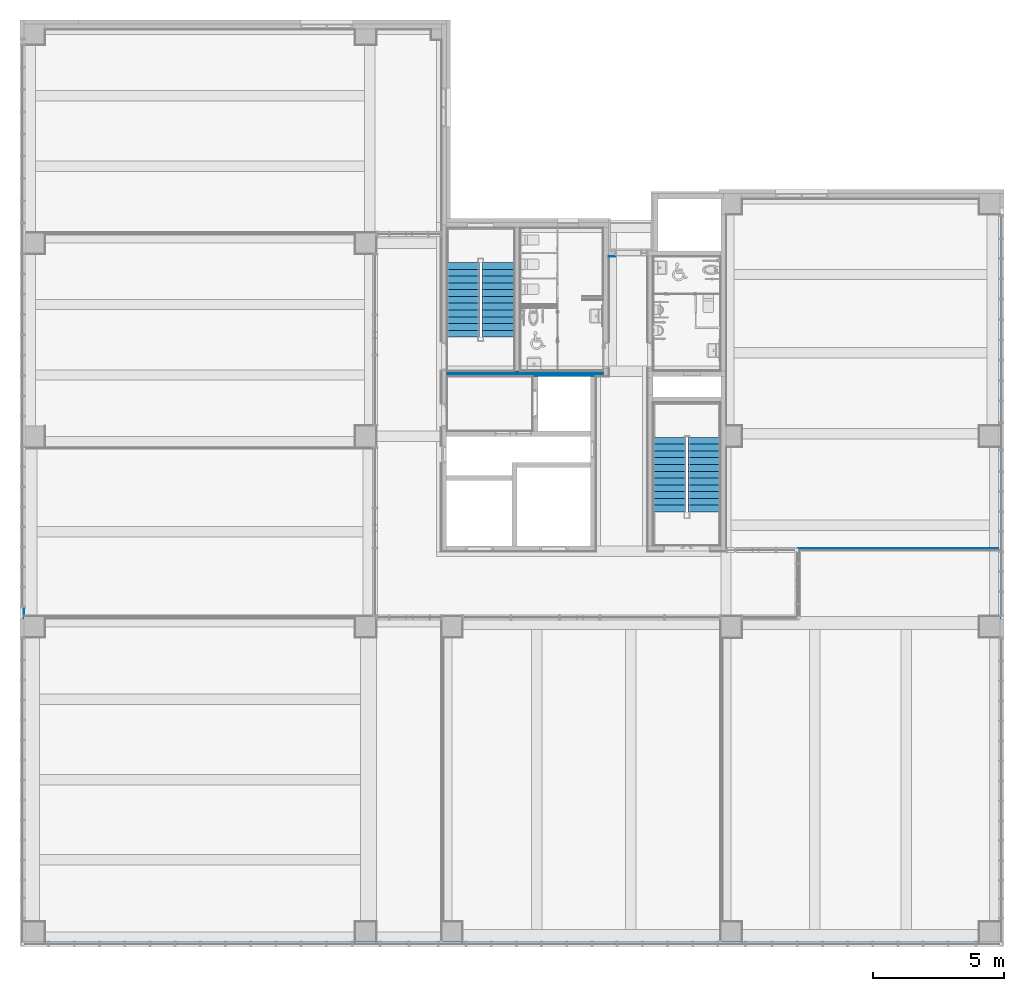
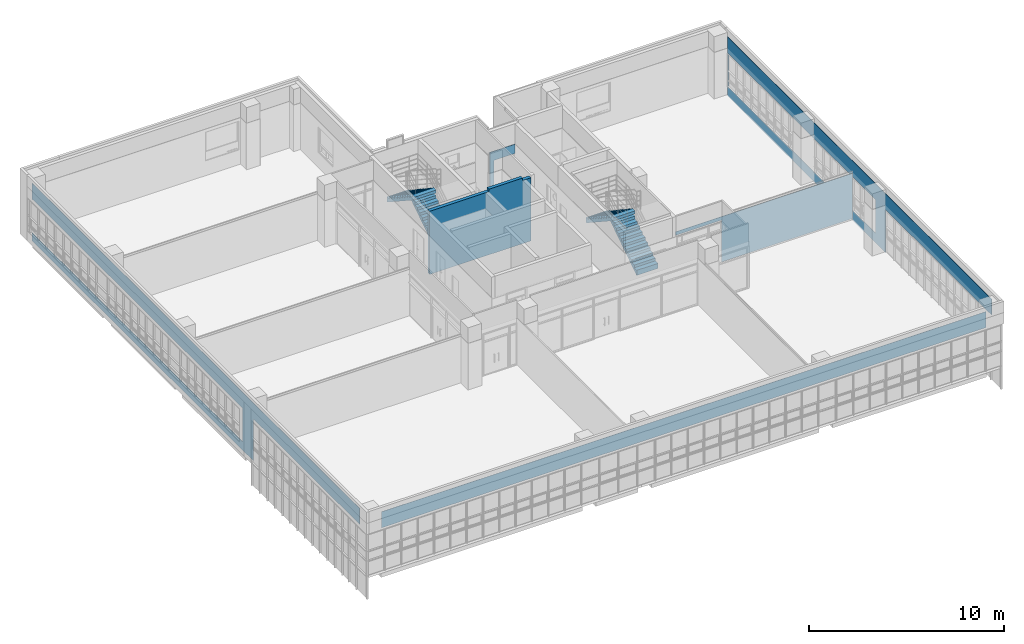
# One storey, part 70 of 81: 6 walls, 4 stair flights, 2 elements without a shape of their own.
"""IFC2X3 building model written with IfcOpenShell, lengths in millimetres."""

from ifc_helpers import new_model, entity, si_unit, converted_unit, derived_unit, direction, frame, origin, place, context, subcontext, project, spatial, faceted_brep, material, layer, layer_set, type_object, element, aggregate, save


model = new_model("IFC2X3")

# Units and contexts
model_context = context("Model", 3, precision=0.01, world=origin(), true_north=direction((6.123031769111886e-17, 1.0)))
body_context = subcontext(model_context, "Body", "Model", "MODEL_VIEW")
ifc_project = project(units=[si_unit("LENGTHUNIT", "METRE", prefix="MILLI"), si_unit("AREAUNIT", "SQUARE_METRE"), si_unit("VOLUMEUNIT", "CUBIC_METRE"), converted_unit("PLANEANGLEUNIT", "DEGREE", entity("IfcRatioMeasure", 0.017453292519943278), si_unit("PLANEANGLEUNIT", "RADIAN"), dimensions=[0, 0, 0, 0, 0, 0, 0]), si_unit("MASSUNIT", "GRAM", prefix="KILO"), derived_unit("MASSDENSITYUNIT", [(si_unit("MASSUNIT", "GRAM", prefix="KILO"), 1), (si_unit("LENGTHUNIT", "METRE"), -3)]), derived_unit("MOMENTOFINERTIAUNIT", [(si_unit("LENGTHUNIT", "METRE"), 4)]), si_unit("TIMEUNIT", "SECOND"), si_unit("FREQUENCYUNIT", "HERTZ"), si_unit("THERMODYNAMICTEMPERATUREUNIT", "DEGREE_CELSIUS"), derived_unit("THERMALTRANSMITTANCEUNIT", [(si_unit("MASSUNIT", "GRAM", prefix="KILO"), 1), (si_unit("THERMODYNAMICTEMPERATUREUNIT", "KELVIN"), -1), (si_unit("TIMEUNIT", "SECOND"), -3)]), derived_unit("VOLUMETRICFLOWRATEUNIT", [(si_unit("LENGTHUNIT", "METRE"), 3), (si_unit("TIMEUNIT", "SECOND"), -1)]), derived_unit("MASSFLOWRATEUNIT", [(si_unit("MASSUNIT", "GRAM", prefix="KILO"), 1), (si_unit("TIMEUNIT", "SECOND"), -1)]), derived_unit("ROTATIONALFREQUENCYUNIT", [(si_unit("TIMEUNIT", "SECOND"), -1)]), si_unit("ELECTRICCURRENTUNIT", "AMPERE"), si_unit("ELECTRICVOLTAGEUNIT", "VOLT"), si_unit("POWERUNIT", "WATT"), si_unit("FORCEUNIT", "NEWTON", prefix="KILO"), si_unit("ILLUMINANCEUNIT", "LUX"), si_unit("LUMINOUSFLUXUNIT", "LUMEN"), si_unit("LUMINOUSINTENSITYUNIT", "CANDELA"), derived_unit("USERDEFINED", [(si_unit("MASSUNIT", "GRAM", prefix="KILO"), -1), (si_unit("LENGTHUNIT", "METRE"), -2), (si_unit("TIMEUNIT", "SECOND"), 3), (si_unit("LUMINOUSFLUXUNIT", "LUMEN"), 1)]), derived_unit("SOUNDPOWERUNIT", [(si_unit("MASSUNIT", "GRAM", prefix="KILO"), 1), (si_unit("LENGTHUNIT", "METRE"), 2), (si_unit("TIMEUNIT", "SECOND"), -3)]), derived_unit("SOUNDPRESSUREUNIT", [(si_unit("MASSUNIT", "GRAM", prefix="KILO"), 1), (si_unit("LENGTHUNIT", "METRE"), -1), (si_unit("TIMEUNIT", "SECOND"), -2)]), derived_unit("LINEARVELOCITYUNIT", [(si_unit("LENGTHUNIT", "METRE"), 1), (si_unit("TIMEUNIT", "SECOND"), -1)]), si_unit("PRESSUREUNIT", "PASCAL"), derived_unit("USERDEFINED", [(si_unit("LENGTHUNIT", "METRE"), -2), (si_unit("MASSUNIT", "GRAM", prefix="KILO"), 1), (si_unit("TIMEUNIT", "SECOND"), -2)]), derived_unit("LINEARFORCEUNIT", [(si_unit("MASSUNIT", "GRAM", prefix="KILO"), 1), (si_unit("LENGTHUNIT", "METRE"), 1), (si_unit("TIMEUNIT", "SECOND"), -2), (si_unit("LENGTHUNIT", "METRE"), -1)]), derived_unit("PLANARFORCEUNIT", [(si_unit("MASSUNIT", "GRAM", prefix="KILO"), 1), (si_unit("LENGTHUNIT", "METRE"), 1), (si_unit("TIMEUNIT", "SECOND"), -2), (si_unit("LENGTHUNIT", "METRE"), -2)])], contexts=[model_context])

# Site, building, storey
site_placement = place(None, frame((-14167.972527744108, -657.2125860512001, 0.0)))
site = spatial("IfcSite", under=ifc_project, at=site_placement, Name="Default", CompositionType="ELEMENT")
building_placement = place(site_placement, origin())
building = spatial("IfcBuilding", under=site, at=building_placement, Name="Sample Building", CompositionType="ELEMENT")
storey_placement = place(building_placement, frame((0.0, 0.0, 13400.0)))
storey = spatial("IfcBuildingStorey", under=building, at=storey_placement, Name="지상 4층", CompositionType="ELEMENT", Elevation=13400.00000000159)

# Walls
ifc_material_1 = material(Name="KBIMS-콘크리트")
ifc_layer_1 = layer(ifc_material_1, 200.0)
ifc_layer_set_1 = layer_set([ifc_layer_1], Name="기본 벽:WA111-철근콘크리트구조 벽 200mm_CW1")
wall_type_1 = type_object("IfcWallType", Name="기본 벽:WA111-철근콘크리트구조 벽 200mm_CW1", PredefinedType="STANDARD", material=ifc_layer_set_1)
wall_1_placement = place(storey_placement, frame((30267.963761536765, 22357.21231133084, -2.3000097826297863e-09)))
element("IfcWall", 1, at=wall_1_placement, inside=storey, type_object=wall_type_1, Name="기본 벽:WA111-철근콘크리트구조 벽 200mm_CW1", ObjectType="기본 벽:WA111-철근콘크리트구조 벽 200mm_CW1", context=body_context, shape_type="Brep", body=[
    faceted_brep([(0.0, -100.0, 0.0), (3298.162052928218, -100.0, 0.0), (3300.0087295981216, -100.0, 0.0), (3300.6416825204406, -100.0, 0.0), (3500.0087295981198, -100.0, 0.0), (5500.008729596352, -100.0, 0.0), (5700.008729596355, -100.0, 0.0), (6000.000036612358, -100.0, 0.0), (6000.000036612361, -100.0, 3950.0), (5899.991380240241, -100.0, 3950.0), (5700.008729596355, -100.0, 3950.0), (5500.0087295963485, -100.0, 3950.0), (5500.0087295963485, -100.0, 4100.0), (3500.0087295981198, -100.0, 4100.0), (3500.0087295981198, -100.0, 3950.0), (3300.0087295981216, -100.0, 3950.0), (0.0, -100.0, 3950.0), (0.0, -100.0, 80.0), (6000.000036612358, 100.0, 0.0), (2800.0087295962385, 100.0, 0.0), (2600.0087295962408, 100.0, 0.0), (0.0, 100.0, 0.0), (0.0, 100.0, 3950.0), (3500.0087295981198, 100.0, 3950.0), (3500.0087295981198, 100.0, 4100.0), (5500.0087295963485, 100.0, 4100.0), (5500.0087295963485, 100.0, 3950.0), (6000.000036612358, 100.0, 3950.0), (6000.000036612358, 100.0, 3900.0), (6000.000036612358, 100.0, 3700.0)], [[[0, 1, 2, 3, 4, 5, 6, 7, 8, 9, 10, 11, 12, 13, 14, 15, 16, 17]], [[18, 19, 20, 21, 22, 23, 24, 25, 26, 27, 28, 29]], [[7, 6, 5, 4, 3, 2, 1, 0, 21, 20, 19, 18]], [[13, 12, 25, 24]], [[21, 0, 17, 16, 22]], [[7, 18, 29, 28, 27, 8]], [[14, 23, 22, 16, 15]], [[23, 14, 13, 24]], [[11, 26, 25, 12]], [[26, 11, 10, 9, 8, 27]]]),
])
ifc_material_2 = material(Name="WA611-수성페인트 (내부) 벽 (3회)")
ifc_layer_2 = layer(ifc_material_2, 1.0)
ifc_material_3 = material(Name="WA551-시멘트모르타르 (내부) 벽 18mm")
ifc_layer_3 = layer(ifc_material_3, 16.0)
ifc_material_4 = material(Name="WA555-콘크리트면정리 벽 (내부)")
ifc_layer_4 = layer(ifc_material_4, 1.0)
ifc_layer_set_2 = layer_set([ifc_layer_2, ifc_layer_3, ifc_layer_4], Name="기본 벽:A1-32-06A-콘크리트면정리, 시멘트모르타르(미장용), 수성페인트(내부) (18mm)")
wall_type_2 = type_object("IfcWallType", Name="기본 벽:A1-32-06A-콘크리트면정리, 시멘트모르타르(미장용), 수성페인트(내부) (18mm)", PredefinedType="STANDARD", material=ifc_layer_set_2)
wall_2_placement = place(storey_placement, frame((40985.9638165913, 15656.212177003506, 80.0)))
element("IfcWall", 2, at=wall_2_placement, inside=storey, type_object=wall_type_2, Name="기본 벽:A1-32-06A-콘크리트면정리, 시멘트모르타르(미장용), 수성페인트(내부) (18mm)", ObjectType="기본 벽:A1-32-06A-콘크리트면정리, 시멘트모르타르(미장용), 수성페인트(내부) (18mm)", context=body_context, shape_type="Brep", body=[
    faceted_brep([(10464.017398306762, -9.0, 2835.268438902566), (0.0, -9.0, 2835.268438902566), (0.0, -9.0, 2620.0), (2687.008674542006, -9.0, 2620.0), (2732.0086745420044, -9.0, 2620.0), (2732.0086745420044, -9.0, 0.0), (10464.017398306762, -9.0, 0.0), (0.0, 9.0, 2835.268438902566), (10464.017398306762, 9.0, 2835.268438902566), (10464.017398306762, 9.0, 0.0), (2732.0086745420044, 9.0, 0.0), (2732.0086745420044, 9.0, 2620.0), (0.0, 9.0, 2620.0)], [[[0, 1, 2, 3, 4, 5, 6]], [[7, 8, 9, 10, 11, 12]], [[6, 5, 10, 9]], [[1, 0, 8, 7]], [[1, 7, 12, 2]], [[4, 11, 10, 5]], [[11, 4, 3, 2, 12]], [[6, 9, 8, 0]]]),
])
wall_3_placement = place(storey_placement, frame((14076.972570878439, 1375.2121951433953, 80.0), z_axis=(0.0, 0.0, 1.0), x_axis=(0.0, 1.0, 0.0)))
element("IfcWall", 3, at=wall_3_placement, inside=storey, type_object=wall_type_2, Name="기본 벽:A1-32-06A-콘크리트면정리, 시멘트모르타르(미장용), 수성페인트(내부) (18mm)", ObjectType="기본 벽:A1-32-06A-콘크리트면정리, 시멘트모르타르(미장용), 수성페인트(내부) (18mm)", context=body_context, shape_type="Brep", body=[
    faceted_brep([(33563.99967636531, -9.0, 3620.0), (0.0, -9.0, 3620.0), (0.0, -9.0, 2620.0), (10881.999703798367, -9.0, 2620.0), (10881.999703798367, -9.0, 0.0), (11681.99970379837, -9.0, 0.0), (11699.99970379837, -9.0, 0.0), (18101.500421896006, -9.0, 0.0), (18119.500421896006, -9.0, 0.0), (25563.999703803, -9.0, 0.0), (25581.999703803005, -9.0, 0.0), (33563.99967636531, -9.0, 0.0), (33563.99967636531, -9.0, 520.0), (12021.60551195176, -9.0, 520.0), (12021.605511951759, -9.0, 2620.0), (33563.99967636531, -9.0, 2620.0), (0.0, 9.0, 3620.0), (33563.99967636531, 9.0, 3620.0), (33563.999676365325, 9.0, 2900.0), (33563.999676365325, 9.0, 2620.0), (12021.60551195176, 9.0, 2620.0), (12021.605511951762, 9.0, 520.0), (33563.99967636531, 9.0, 520.0), (33563.99967636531, 9.0, 0.0), (10881.999703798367, 9.0, 0.0), (10881.999703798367, 9.0, 2620.0), (0.0, 9.0, 2620.0), (0.0, 9.0, 2900.0)], [[[0, 1, 2, 3, 4, 5, 6, 7, 8, 9, 10, 11, 12, 13, 14, 15]], [[16, 17, 18, 19, 20, 21, 22, 23, 24, 25, 26, 27]], [[2, 1, 16, 27, 26]], [[14, 20, 19, 15]], [[20, 14, 13, 21]], [[21, 13, 12, 22]], [[1, 0, 17, 16]], [[3, 2, 26, 25]], [[11, 10, 9, 8, 7, 6, 5, 4, 24, 23]], [[4, 3, 25, 24]], [[11, 23, 22, 12]], [[17, 0, 15, 19, 18]]]),
])
wall_4_placement = place(storey_placement, frame((14885.955123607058, 566.2121951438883, 2700.0)))
element("IfcWall", 4, at=wall_4_placement, inside=storey, type_object=wall_type_2, Name="기본 벽:A1-32-06A-콘크리트면정리, 시멘트모르타르(미장용), 수성페인트(내부) (18mm)", ObjectType="기본 벽:A1-32-06A-콘크리트면정리, 시멘트모르타르(미장용), 수성페인트(내부) (18mm)", context=body_context, shape_type="Brep", body=[
    faceted_brep([(0.0, -9.0, 0.0), (26700.0, -9.0, 0.0), (35764.008714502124, -9.0, 0.0), (35764.008714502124, -9.0, 280.0), (35764.008714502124, -9.0, 1000.0), (0.0, -9.0, 1000.0), (0.0, -9.0, 280.0), (0.0, 9.0, 0.0), (0.0, 9.0, 1000.0), (35764.008714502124, 9.0, 1000.0), (35764.008714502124, 9.0, 0.0), (26700.0, 9.0, 0.0)], [[[0, 1, 2, 3, 4, 5, 6]], [[7, 8, 9, 10, 11]], [[0, 6, 5, 8, 7]], [[4, 3, 2, 10, 9]], [[5, 4, 9, 8]], [[1, 0, 7, 11]], [[2, 1, 11, 10]]]),
])
wall_5_placement = place(storey_placement, frame((51458.98121489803, 1375.2118989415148, 0.0), z_axis=(0.0, 0.0, 1.0), x_axis=(0.0, 1.0, 0.0)))
element("IfcWall", 5, at=wall_5_placement, inside=storey, type_object=wall_type_2, Name="기본 벽:A1-32-06A-콘크리트면정리, 시멘트모르타르(미장용), 수성페인트(내부) (18mm)", ObjectType="기본 벽:A1-32-06A-콘크리트면정리, 시멘트모르타르(미장용), 수성페인트(내부) (18mm)", context=body_context, shape_type="Brep", body=[
    faceted_brep([(27064.000087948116, -9.0, 3700.0), (0.0, -9.0, 3700.0), (0.0, -9.0, 2980.0), (0.0, -9.0, 2700.0), (10882.000421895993, -9.0, 2700.0), (10882.000421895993, -9.0, 80.0), (10882.000421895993, -9.0, 0.0), (27064.000087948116, -9.0, 0.0), (27064.000087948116, -9.0, 80.0), (27064.000087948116, -9.0, 2980.0), (11882.000396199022, -9.0, 2700.0), (27014.37083641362, -9.0, 2700.0), (27014.37083641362, -9.0, 600.0), (11882.000396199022, -9.0, 600.0), (11882.000396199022, 9.0, 2700.0), (11882.000396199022, 9.0, 600.0), (27014.37083641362, 9.0, 600.0), (27014.37083641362, 9.0, 2700.0), (27064.000087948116, 9.0, 3700.0), (27064.000087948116, 9.0, 0.0), (10882.000421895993, 9.0, 0.0), (10882.000421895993, 9.0, 2700.0), (0.0, 9.0, 2700.0), (0.0, 9.0, 3700.0)], [[[0, 1, 2, 3, 4, 5, 6, 7, 8, 9], [10, 11, 12, 13]], [[14, 15, 16, 17], [18, 19, 20, 21, 22, 23]], [[1, 0, 18, 23]], [[7, 6, 20, 19]], [[4, 3, 22, 21]], [[11, 10, 14, 17]], [[12, 11, 17, 16]], [[13, 12, 16, 15]], [[10, 13, 15, 14]], [[6, 5, 4, 21, 20]], [[0, 9, 8, 7, 19, 18]], [[3, 2, 1, 23, 22]]], outer=[[True, False], [False, True], [True], [True], [True], [True], [True], [True], [True], [True], [True], [True]]),
])
ifc_layer_5 = layer(ifc_material_2, 1.0)
ifc_material_5 = material(Name="WA551-시멘트모르타르 (내부) 벽 24mm")
ifc_layer_6 = layer(ifc_material_5, 21.0)
ifc_material_6 = material(Name="WA961-바닥방수 연장")
ifc_layer_7 = layer(ifc_material_6, 1.0)
ifc_layer_8 = layer(ifc_material_4, 1.0)
ifc_layer_set_3 = layer_set([ifc_layer_5, ifc_layer_6, ifc_layer_7, ifc_layer_8], Name="기본 벽:A1-32-07A-콘크리트면정리, 바닥방수연장, 시멘트모르타르(미장용), 수성페인트(내부) (24mm)")
wall_type_3 = type_object("IfcWallType", Name="기본 벽:A1-32-07A-콘크리트면정리, 바닥방수연장, 시멘트모르타르(미장용), 수성페인트(내부) (24mm)", PredefinedType="STANDARD", material=ifc_layer_set_3)
wall_6_placement = place(storey_placement, frame((37943.96381659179, 26845.211886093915, 80.0), z_axis=(0.0, 0.0, 1.0), x_axis=(-1.0, 0.0, 0.0)))
element("IfcWall", 6, at=wall_6_placement, inside=storey, type_object=wall_type_3, Name="기본 벽:A1-32-07A-콘크리트면정리, 바닥방수연장, 시멘트모르타르(미장용), 수성페인트(내부) (24mm)", ObjectType="기본 벽:A1-32-07A-콘크리트면정리, 바닥방수연장, 시멘트모르타르(미장용), 수성페인트(내부) (24mm)", context=body_context, shape_type="Brep", body=[
    faceted_brep([(1476.000018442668, -12.0, 2600.0), (0.0, -12.0, 2600.0), (0.0, -12.0, 2020.0), (1226.0000184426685, -12.0, 2020.0), (1226.0000184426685, -12.0, 0.0), (1476.000018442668, -12.0, 0.0), (0.0, 12.0, 2600.0), (1452.0, 12.0, 2600.0), (1476.000018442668, 12.0, 2600.0), (1476.000018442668, 12.0, 0.0), (1452.0, 12.0, 0.0), (1226.0000184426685, 12.0, 0.0), (1226.0000184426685, 12.0, 2020.0), (0.0, 12.0, 2020.0)], [[[0, 1, 2, 3, 4, 5]], [[6, 7, 8, 9, 10, 11, 12, 13]], [[9, 5, 4, 11, 10]], [[1, 0, 8, 7, 6]], [[1, 6, 13, 2]], [[0, 5, 9, 8]], [[3, 12, 11, 4]], [[12, 3, 2, 13]]]),
])

# Stair, stair flights
stair_1_placement = place(storey_placement, origin())
stair_1 = element("IfcStair", 7, at=stair_1_placement, inside=storey, Name="현장타설 계단:계단", ObjectType="현장타설 계단:ST111-철근콘크리트구조 계단 (U형)", ShapeType="NOTDEFINED")
stair_flight_type_1 = type_object("IfcStairFlightType", Name="일체형 계단진행:일체형 계단진행 150mm_철근콘크리트", PredefinedType="STRAIGHT")
stair_flight_1_placement = place(stair_1_placement, frame((31616.117033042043, 23757.17779328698, 0.0)))
stair_flight_1 = element("IfcStairFlight", 8, at=stair_flight_1_placement, type_object=stair_flight_type_1, material=ifc_material_1, Name="현장타설 계단:계단:5315106 Run 1", ObjectType="일체형 계단진행:일체형 계단진행 150mm_철근콘크리트", NumberOfRiser=12, NumberOfTreads=11, RiserHeight=0.5604768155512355, TreadLength=0.8530183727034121, context=body_context, shape_type="Brep", body=[
    faceted_brep([(0.0, 260.0, 170.8333333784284), (0.0, 0.0, 170.8333333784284), (1250.0087814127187, 0.0, 170.8333333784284), (1250.0087814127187, 260.0, 170.8333333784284), (0.0, 260.0, -8.648194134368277), (0.0, 44.86944674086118, -150.0), (0.0, 0.0, -150.0), (1250.0087814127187, 0.0, -150.0), (1250.0087814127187, 44.86944674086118, -150.0), (1250.0087814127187, 260.0, -8.648194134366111), (0.0, 520.0, 341.66666675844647), (0.0, 260.0, 341.66666675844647), (1250.0087814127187, 260.0, 341.66666675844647), (1250.0087814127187, 520.0, 341.66666675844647), (0.0, 520.0, 162.1851392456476), (1250.0087814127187, 520.0, 162.1851392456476), (0.0, 780.0, 512.5000001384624), (0.0, 520.0, 512.5000001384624), (1250.0087814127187, 520.0, 512.5000001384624), (1250.0087814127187, 780.0, 512.5000001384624), (0.0, 780.0, 333.0184726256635), (1250.0087814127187, 780.0, 333.01847262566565), (0.0, 1040.0, 683.3333335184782), (0.0, 780.0, 683.3333335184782), (1250.0087814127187, 780.0, 683.3333335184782), (1250.0087814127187, 1040.0, 683.3333335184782), (0.0, 1040.0, 503.8518060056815), (1250.0087814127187, 1040.0, 503.8518060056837), (0.0, 1300.0, 854.1666668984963), (0.0, 1040.0, 854.1666668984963), (1250.0087814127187, 1040.0, 854.1666668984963), (1250.0087814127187, 1300.0, 854.1666668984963), (0.0, 1300.0, 674.6851393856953), (1250.0087814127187, 1300.0, 674.6851393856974), (0.0, 1560.0, 1025.0), (0.0, 1300.0, 1025.0), (1250.0087814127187, 1300.0, 1025.0), (1250.0087814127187, 1560.0, 1025.0), (0.0, 1560.0, 845.5184727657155), (1250.0087814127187, 1560.0, 845.5184727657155), (0.0, 1820.0, 1195.833333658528), (0.0, 1560.0, 1195.833333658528), (1250.0087814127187, 1560.0, 1195.833333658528), (1250.0087814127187, 1820.0, 1195.833333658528), (0.0, 1820.0, 1016.3518061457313), (1250.0087814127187, 1820.0, 1016.3518061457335), (0.0, 2080.0, 1366.6666670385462), (0.0, 1820.0, 1366.6666670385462), (1250.0087814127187, 1820.0, 1366.6666670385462), (1250.0087814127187, 2080.0, 1366.6666670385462), (0.0, 2080.0, 1187.1851395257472), (1250.0087814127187, 2080.0, 1187.1851395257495), (0.0, 2340.0, 1537.500000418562), (0.0, 2080.0, 1537.500000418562), (1250.0087814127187, 2080.0, 1537.500000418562), (1250.0087814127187, 2340.0, 1537.500000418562), (0.0, 2340.0, 1358.018472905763), (1250.0087814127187, 2340.0, 1358.0184729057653), (0.0, 2600.0, 1708.3333337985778), (0.0, 2340.0, 1708.3333337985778), (1250.0087814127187, 2340.0, 1708.3333337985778), (1250.0087814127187, 2600.0, 1708.3333337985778), (0.0, 2600.0, 1528.8518062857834), (1250.0087814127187, 2600.0, 1528.8518062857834), (0.0, 2860.0, 1879.1666671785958), (0.0, 2600.0, 1879.1666671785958), (1250.0087814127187, 2600.0, 1879.1666671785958), (1250.0087814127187, 2860.0, 1879.1666671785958), (0.0, 2860.0, 1699.6851396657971), (1250.0087814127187, 2860.0, 1699.6851396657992)], [[[0, 1, 2, 3]], [[1, 0, 4, 5, 6]], [[2, 1, 6, 7]], [[3, 2, 7, 8, 9]], [[10, 11, 12, 13]], [[11, 10, 14, 4, 0]], [[0, 3, 12, 11]], [[13, 12, 3, 9, 15]], [[16, 17, 18, 19]], [[17, 16, 20, 14, 10]], [[10, 13, 18, 17]], [[19, 18, 13, 15, 21]], [[22, 23, 24, 25]], [[23, 22, 26, 20, 16]], [[16, 19, 24, 23]], [[25, 24, 19, 21, 27]], [[28, 29, 30, 31]], [[29, 28, 32, 26, 22]], [[22, 25, 30, 29]], [[31, 30, 25, 27, 33]], [[34, 35, 36, 37]], [[35, 34, 38, 32, 28]], [[28, 31, 36, 35]], [[37, 36, 31, 33, 39]], [[40, 41, 42, 43]], [[41, 40, 44, 38, 34]], [[34, 37, 42, 41]], [[43, 42, 37, 39, 45]], [[46, 47, 48, 49]], [[47, 46, 50, 44, 40]], [[40, 43, 48, 47]], [[49, 48, 43, 45, 51]], [[52, 53, 54, 55]], [[53, 52, 56, 50, 46]], [[46, 49, 54, 53]], [[55, 54, 49, 51, 57]], [[58, 59, 60, 61]], [[59, 58, 62, 56, 52]], [[52, 55, 60, 59]], [[61, 60, 55, 57, 63]], [[64, 65, 66, 67]], [[65, 64, 68, 62, 58]], [[58, 61, 66, 65]], [[67, 66, 61, 63, 69]], [[64, 67, 69, 68]], [[7, 6, 5, 8]], [[8, 5, 4, 14, 20, 26, 32, 38, 44, 50, 56, 62, 68, 69, 63, 57, 51, 45, 39, 33, 27, 21, 15, 9]]]),
])
stair_flight_type_2 = type_object("IfcStairFlightType", Name="일체형 계단진행:일체형 계단진행 150mm_철근콘크리트", PredefinedType="STRAIGHT")
stair_flight_2_placement = place(stair_1_placement, frame((30266.125814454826, 23757.143387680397, 0.0)))
stair_flight_2 = element("IfcStairFlight", 9, at=stair_flight_2_placement, type_object=stair_flight_type_2, material=ifc_material_1, Name="현장타설 계단:계단:5315106 Run 2", ObjectType="일체형 계단진행:일체형 계단진행 150mm_철근콘크리트", NumberOfRiser=12, NumberOfTreads=11, RiserHeight=0.5604768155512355, TreadLength=0.8530183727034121, context=body_context, shape_type="Brep", body=[
    faceted_brep([(1249.9990872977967, 2860.0, 2220.8333339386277), (0.0, 2860.0, 2220.8333339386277), (0.0, 2815.130553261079, 2220.8333339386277), (0.0, 2600.0, 2220.8333339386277), (1249.9990872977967, 2600.0, 2220.8333339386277), (1249.9990872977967, 2815.130553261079, 2220.8333339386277), (1249.9990872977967, 2600.0, 2041.3518064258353), (1249.9990872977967, 2815.130553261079, 1900.0), (1249.9990872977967, 2860.0, 1900.0), (0.0, 2860.0, 1900.0), (0.0, 2860.0, 2050.0), (0.0, 2815.1305532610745, 1900.0), (0.0, 2600.0, 2041.351806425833), (1249.9990872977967, 2340.0, 2391.6666673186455), (1249.9990872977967, 2600.0, 2391.6666673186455), (0.0, 2600.0, 2391.6666673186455), (0.0, 2340.0, 2391.6666673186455), (1249.9990872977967, 2340.0, 2212.185139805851), (0.0, 2340.0, 2212.185139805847), (1249.9990872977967, 2080.0, 2562.5000006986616), (1249.9990872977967, 2340.0, 2562.5000006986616), (0.0, 2340.0, 2562.5000006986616), (0.0, 2080.0, 2562.5000006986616), (1249.9990872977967, 2080.0, 2383.018473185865), (0.0, 2080.0, 2383.018473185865), (1249.9990872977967, 1820.0, 2733.3333340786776), (1249.9990872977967, 2080.0, 2733.3333340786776), (0.0, 2080.0, 2733.3333340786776), (0.0, 1820.0, 2733.3333340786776), (1249.9990872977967, 1820.0, 2553.851806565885), (0.0, 1820.0, 2553.8518065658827), (1249.9990872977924, 1560.0, 2904.1666674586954), (1249.9990872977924, 1820.0, 2904.1666674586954), (0.0, 1820.0, 2904.1666674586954), (0.0, 1560.0, 2904.1666674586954), (1249.9990872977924, 1560.0, 2724.685139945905), (0.0, 1560.0, 2724.6851399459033), (1249.9990872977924, 1300.0, 3075.0), (1249.9990872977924, 1560.0, 3075.0), (0.0, 1560.0, 3075.0), (0.0, 1300.0, 3075.0), (1249.9990872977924, 1300.0, 2895.518473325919), (0.0, 1300.0, 2895.518473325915), (1249.9990872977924, 1040.0, 3245.8333342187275), (1249.9990872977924, 1300.0, 3245.8333342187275), (0.0, 1300.0, 3245.8333342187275), (0.0, 1040.0, 3245.8333342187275), (1249.9990872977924, 1040.0, 3066.351806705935), (0.0, 1040.0, 3066.3518067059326), (1249.9990872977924, 780.0, 3416.6666675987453), (1249.9990872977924, 1040.0, 3416.6666675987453), (0.0, 1040.0, 3416.6666675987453), (0.0, 780.0, 3416.6666675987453), (1249.9990872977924, 780.0, 3237.185140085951), (0.0, 780.0, 3237.1851400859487), (1249.9990872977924, 520.0, 3587.5000009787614), (1249.9990872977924, 780.0, 3587.5000009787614), (0.0, 780.0, 3587.5000009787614), (0.0, 520.0, 3587.5000009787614), (1249.9990872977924, 520.0, 3408.0184734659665), (0.0, 520.0, 3408.0184734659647), (1249.9990872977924, 260.0, 3578.851806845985), (1249.9990872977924, 0.0, 3749.6851402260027), (0.0, 0.0, 3749.685140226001), (0.0, 260.0, 3578.851806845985), (1249.9990872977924, 260.0, 3758.333334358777), (1249.9990872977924, 520.0, 3758.333334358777), (0.0, 520.0, 3758.333334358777), (0.0, 260.0, 3758.333334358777), (1249.9990872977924, 0.0, 3929.1666677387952), (1249.9990872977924, 260.0, 3929.1666677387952), (0.0, 260.0, 3929.1666677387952), (0.0, 0.0, 3929.1666677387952)], [[[0, 1, 2, 3, 4, 5]], [[4, 6, 7, 8, 0, 5]], [[1, 0, 8, 9, 10]], [[1, 10, 9, 11, 12, 3, 2]], [[13, 14, 15, 16]], [[14, 13, 17, 6, 4]], [[15, 14, 4, 3]], [[16, 15, 3, 12, 18]], [[19, 20, 21, 22]], [[20, 19, 23, 17, 13]], [[21, 20, 13, 16]], [[22, 21, 16, 18, 24]], [[25, 26, 27, 28]], [[26, 25, 29, 23, 19]], [[27, 26, 19, 22]], [[28, 27, 22, 24, 30]], [[31, 32, 33, 34]], [[32, 31, 35, 29, 25]], [[33, 32, 25, 28]], [[34, 33, 28, 30, 36]], [[37, 38, 39, 40]], [[38, 37, 41, 35, 31]], [[39, 38, 31, 34]], [[40, 39, 34, 36, 42]], [[43, 44, 45, 46]], [[44, 43, 47, 41, 37]], [[45, 44, 37, 40]], [[46, 45, 40, 42, 48]], [[49, 50, 51, 52]], [[50, 49, 53, 47, 43]], [[51, 50, 43, 46]], [[52, 51, 46, 48, 54]], [[55, 56, 57, 58]], [[56, 55, 59, 53, 49]], [[57, 56, 49, 52]], [[58, 57, 52, 54, 60]], [[11, 7, 6, 17, 23, 29, 35, 41, 47, 53, 59, 61, 62, 63, 64, 60, 54, 48, 42, 36, 30, 24, 18, 12]], [[7, 11, 9, 8]], [[65, 66, 67, 68]], [[66, 65, 61, 59, 55]], [[67, 66, 55, 58]], [[68, 67, 58, 60, 64]], [[69, 70, 71, 72]], [[70, 69, 62, 61, 65]], [[71, 70, 65, 68]], [[72, 71, 68, 64, 63]], [[69, 72, 63, 62]]]),
])
aggregate(stair_1, [stair_flight_1, stair_flight_2])

stair_2_placement = place(storey_placement, origin())
stair_2 = element("IfcStair", 10, at=stair_2_placement, inside=storey, Name="현장타설 계단:계단", ObjectType="현장타설 계단:ST111-철근콘크리트구조 계단 (U형)", ShapeType="NOTDEFINED")
stair_flight_type_3 = type_object("IfcStairFlightType", Name="일체형 계단진행:일체형 계단진행 150mm_철근콘크리트", PredefinedType="STRAIGHT")
stair_flight_3_placement = place(stair_2_placement, frame((39515.97820509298, 17057.17778994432, 0.0)))
stair_flight_3 = element("IfcStairFlight", 11, at=stair_flight_3_placement, type_object=stair_flight_type_3, material=ifc_material_1, Name="현장타설 계단:계단:5315424 Run 1", ObjectType="일체형 계단진행:일체형 계단진행 150mm_철근콘크리트", NumberOfRiser=12, NumberOfTreads=11, RiserHeight=0.5604768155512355, TreadLength=0.8530183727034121, context=body_context, shape_type="Brep", body=[
    faceted_brep([(0.0, 260.0, 170.8333333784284), (0.0, 0.0, 170.8333333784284), (1250.0087814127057, 0.0, 170.8333333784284), (1250.0087814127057, 260.0, 170.8333333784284), (0.0, 260.0, -8.648194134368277), (0.0, 44.869446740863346, -150.0), (0.0, 0.0, -150.0), (1250.0087814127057, 0.0, -150.0), (1250.0087814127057, 44.86944674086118, -150.0), (1250.0087814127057, 260.0, -8.648194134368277), (0.0, 520.0, 341.66666675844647), (0.0, 260.0, 341.66666675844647), (1250.0087814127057, 260.0, 341.66666675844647), (1250.0087814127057, 520.0, 341.66666675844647), (0.0, 520.0, 162.1851392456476), (1250.0087814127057, 520.0, 162.18513924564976), (0.0, 780.0, 512.5000001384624), (0.0, 520.0, 512.5000001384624), (1250.0087814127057, 520.0, 512.5000001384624), (1250.0087814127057, 780.0, 512.5000001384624), (0.0, 780.0, 333.0184726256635), (1250.0087814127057, 780.0, 333.01847262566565), (0.0, 1040.0, 683.3333335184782), (0.0, 780.0, 683.3333335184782), (1250.0087814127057, 780.0, 683.3333335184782), (1250.0087814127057, 1040.0, 683.3333335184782), (0.0, 1040.0, 503.8518060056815), (1250.0087814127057, 1040.0, 503.8518060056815), (0.0, 1300.0, 854.1666668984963), (0.0, 1040.0, 854.1666668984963), (1250.0087814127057, 1040.0, 854.1666668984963), (1250.0087814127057, 1300.0, 854.1666668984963), (0.0, 1300.0, 674.6851393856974), (1250.0087814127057, 1300.0, 674.6851393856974), (0.0, 1560.0, 1025.0), (0.0, 1300.0, 1025.0), (1250.0087814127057, 1300.0, 1025.0), (1250.0087814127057, 1560.0, 1025.0), (0.0, 1560.0, 845.5184727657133), (1250.0087814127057, 1560.0, 845.5184727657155), (0.0, 1820.0, 1195.833333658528), (0.0, 1560.0, 1195.833333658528), (1250.0087814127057, 1560.0, 1195.833333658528), (1250.0087814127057, 1820.0, 1195.833333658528), (0.0, 1820.0, 1016.3518061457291), (1250.0087814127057, 1820.0, 1016.3518061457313), (0.0, 2080.0, 1366.6666670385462), (0.0, 1820.0, 1366.6666670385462), (1250.0087814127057, 1820.0, 1366.6666670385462), (1250.0087814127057, 2080.0, 1366.6666670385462), (0.0, 2080.0, 1187.1851395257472), (1250.0087814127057, 2080.0, 1187.1851395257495), (0.0, 2340.0, 1537.500000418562), (0.0, 2080.0, 1537.500000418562), (1250.0087814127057, 2080.0, 1537.500000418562), (1250.0087814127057, 2340.0, 1537.500000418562), (0.0, 2340.0, 1358.0184729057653), (1250.0087814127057, 2340.0, 1358.0184729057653), (0.0, 2600.0, 1708.3333337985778), (0.0, 2340.0, 1708.3333337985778), (1250.0087814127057, 2340.0, 1708.3333337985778), (1250.0087814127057, 2600.0, 1708.3333337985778), (0.0, 2600.0, 1528.851806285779), (1250.0087814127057, 2600.0, 1528.851806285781), (0.0, 2860.0, 1879.1666671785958), (0.0, 2600.0, 1879.1666671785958), (1250.0087814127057, 2600.0, 1879.1666671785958), (1250.0087814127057, 2860.0, 1879.1666671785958), (0.0, 2860.0, 1699.6851396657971), (1250.0087814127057, 2860.0, 1699.6851396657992)], [[[0, 1, 2, 3]], [[1, 0, 4, 5, 6]], [[2, 1, 6, 7]], [[3, 2, 7, 8, 9]], [[10, 11, 12, 13]], [[11, 10, 14, 4, 0]], [[0, 3, 12, 11]], [[13, 12, 3, 9, 15]], [[16, 17, 18, 19]], [[17, 16, 20, 14, 10]], [[10, 13, 18, 17]], [[19, 18, 13, 15, 21]], [[22, 23, 24, 25]], [[23, 22, 26, 20, 16]], [[16, 19, 24, 23]], [[25, 24, 19, 21, 27]], [[28, 29, 30, 31]], [[29, 28, 32, 26, 22]], [[22, 25, 30, 29]], [[31, 30, 25, 27, 33]], [[34, 35, 36, 37]], [[35, 34, 38, 32, 28]], [[28, 31, 36, 35]], [[37, 36, 31, 33, 39]], [[40, 41, 42, 43]], [[41, 40, 44, 38, 34]], [[34, 37, 42, 41]], [[43, 42, 37, 39, 45]], [[46, 47, 48, 49]], [[47, 46, 50, 44, 40]], [[40, 43, 48, 47]], [[49, 48, 43, 45, 51]], [[52, 53, 54, 55]], [[53, 52, 56, 50, 46]], [[46, 49, 54, 53]], [[55, 54, 49, 51, 57]], [[58, 59, 60, 61]], [[59, 58, 62, 56, 52]], [[52, 55, 60, 59]], [[61, 60, 55, 57, 63]], [[64, 65, 66, 67]], [[65, 64, 68, 62, 58]], [[58, 61, 66, 65]], [[67, 66, 61, 63, 69]], [[64, 67, 69, 68]], [[7, 6, 5, 8]], [[8, 5, 4, 14, 20, 26, 32, 38, 44, 50, 56, 62, 68, 69, 63, 57, 51, 45, 39, 33, 27, 21, 15, 9]]]),
])
stair_flight_type_4 = type_object("IfcStairFlightType", Name="일체형 계단진행:일체형 계단진행 150mm_철근콘크리트", PredefinedType="STRAIGHT")
stair_flight_4_placement = place(stair_2_placement, frame((38165.98698650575, 17057.14338433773, 0.0)))
stair_flight_4 = element("IfcStairFlight", 12, at=stair_flight_4_placement, type_object=stair_flight_type_4, material=ifc_material_1, Name="현장타설 계단:계단:5315424 Run 2", ObjectType="일체형 계단진행:일체형 계단진행 150mm_철근콘크리트", NumberOfRiser=12, NumberOfTreads=11, RiserHeight=0.5604768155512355, TreadLength=0.8530183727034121, context=body_context, shape_type="Brep", body=[
    faceted_brep([(1249.999087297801, 2860.0, 2220.8333339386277), (0.0, 2860.0, 2220.8333339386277), (0.0, 2815.130553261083, 2220.8333339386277), (0.0, 2600.0, 2220.8333339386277), (1249.999087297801, 2600.0, 2220.8333339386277), (1249.999087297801, 2815.130553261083, 2220.8333339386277), (1249.999087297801, 2600.0, 2041.3518064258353), (1249.999087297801, 2815.130553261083, 1900.0), (1249.999087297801, 2860.0, 1900.0), (0.0, 2860.0, 1900.0), (0.0, 2860.0, 2050.0), (0.0, 2815.130553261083, 1900.0), (0.0, 2600.0, 2041.351806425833), (1249.999087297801, 2340.0, 2391.6666673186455), (1249.999087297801, 2600.0, 2391.6666673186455), (0.0, 2600.0, 2391.6666673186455), (0.0, 2340.0, 2391.6666673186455), (1249.999087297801, 2340.0, 2212.185139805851), (0.0, 2340.0, 2212.185139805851), (1249.999087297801, 2080.0, 2562.5000006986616), (1249.999087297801, 2340.0, 2562.5000006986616), (0.0, 2340.0, 2562.5000006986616), (0.0, 2080.0, 2562.5000006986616), (1249.999087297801, 2080.0, 2383.0184731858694), (0.0, 2080.0, 2383.018473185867), (1249.999087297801, 1820.0, 2733.3333340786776), (1249.999087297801, 2080.0, 2733.3333340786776), (0.0, 2080.0, 2733.3333340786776), (0.0, 1820.0, 2733.3333340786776), (1249.999087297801, 1820.0, 2553.851806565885), (0.0, 1820.0, 2553.8518065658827), (1249.999087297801, 1560.0, 2904.1666674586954), (1249.999087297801, 1820.0, 2904.1666674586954), (0.0, 1820.0, 2904.1666674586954), (0.0, 1560.0, 2904.1666674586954), (1249.999087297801, 1560.0, 2724.6851399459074), (0.0, 1560.0, 2724.685139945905), (1249.999087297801, 1300.0, 3075.0), (1249.999087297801, 1560.0, 3075.0), (0.0, 1560.0, 3075.0), (0.0, 1300.0, 3075.0), (1249.999087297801, 1300.0, 2895.518473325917), (0.0, 1300.0, 2895.518473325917), (1249.999087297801, 1040.0, 3245.8333342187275), (1249.999087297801, 1300.0, 3245.8333342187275), (0.0, 1300.0, 3245.8333342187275), (0.0, 1040.0, 3245.8333342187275), (1249.999087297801, 1040.0, 3066.351806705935), (0.0, 1040.0, 3066.3518067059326), (1249.999087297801, 780.0, 3416.6666675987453), (1249.999087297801, 1040.0, 3416.6666675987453), (0.0, 1040.0, 3416.6666675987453), (0.0, 780.0, 3416.6666675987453), (1249.999087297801, 780.0, 3237.185140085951), (0.0, 780.0, 3237.1851400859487), (1249.999087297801, 520.0, 3587.5000009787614), (1249.999087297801, 780.0, 3587.5000009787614), (0.0, 780.0, 3587.5000009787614), (0.0, 520.0, 3587.5000009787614), (1249.999087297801, 520.0, 3408.018473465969), (0.0, 520.0, 3408.0184734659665), (1249.9990872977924, 260.0, 3578.8518068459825), (1249.9990872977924, 0.0, 3749.6851402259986), (0.0, 0.0, 3749.685140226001), (0.0, 260.0, 3578.8518068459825), (1249.9990872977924, 260.0, 3758.333334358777), (1249.9990872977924, 520.0, 3758.333334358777), (0.0, 520.0, 3758.333334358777), (0.0, 260.0, 3758.333334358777), (1249.9990872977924, 0.0, 3929.1666677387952), (1249.9990872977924, 260.0, 3929.1666677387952), (0.0, 260.0, 3929.1666677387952), (0.0, 0.0, 3929.1666677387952)], [[[0, 1, 2, 3, 4, 5]], [[4, 6, 7, 8, 0, 5]], [[1, 0, 8, 9, 10]], [[1, 10, 9, 11, 12, 3, 2]], [[13, 14, 15, 16]], [[14, 13, 17, 6, 4]], [[15, 14, 4, 3]], [[16, 15, 3, 12, 18]], [[19, 20, 21, 22]], [[20, 19, 23, 17, 13]], [[21, 20, 13, 16]], [[22, 21, 16, 18, 24]], [[25, 26, 27, 28]], [[26, 25, 29, 23, 19]], [[27, 26, 19, 22]], [[28, 27, 22, 24, 30]], [[31, 32, 33, 34]], [[32, 31, 35, 29, 25]], [[33, 32, 25, 28]], [[34, 33, 28, 30, 36]], [[37, 38, 39, 40]], [[38, 37, 41, 35, 31]], [[39, 38, 31, 34]], [[40, 39, 34, 36, 42]], [[43, 44, 45, 46]], [[44, 43, 47, 41, 37]], [[45, 44, 37, 40]], [[46, 45, 40, 42, 48]], [[49, 50, 51, 52]], [[50, 49, 53, 47, 43]], [[51, 50, 43, 46]], [[52, 51, 46, 48, 54]], [[55, 56, 57, 58]], [[56, 55, 59, 53, 49]], [[57, 56, 49, 52]], [[58, 57, 52, 54, 60]], [[11, 7, 6, 17, 23, 29, 35, 41, 47, 53, 59, 61, 62, 63, 64, 60, 54, 48, 42, 36, 30, 24, 18, 12]], [[7, 11, 9, 8]], [[65, 66, 67, 68]], [[66, 65, 61, 59, 55]], [[67, 66, 55, 58]], [[68, 67, 58, 60, 64]], [[69, 70, 71, 72]], [[70, 69, 62, 61, 65]], [[71, 70, 65, 68]], [[72, 71, 68, 64, 63]], [[69, 72, 63, 62]]]),
])
aggregate(stair_2, [stair_flight_3, stair_flight_4])

save(model, "model.ifc")
